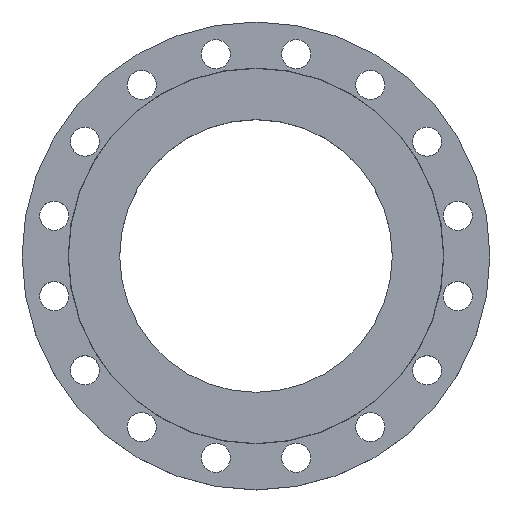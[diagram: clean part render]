
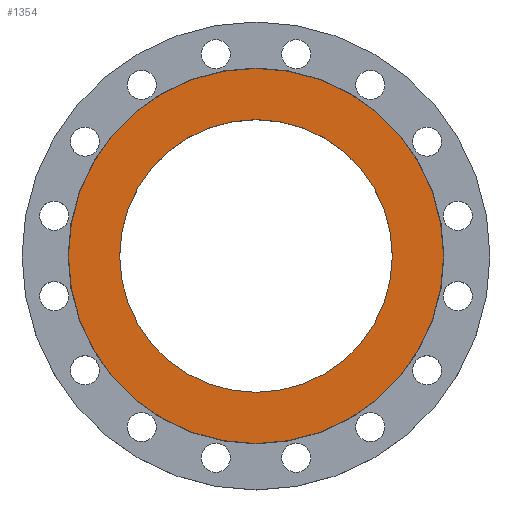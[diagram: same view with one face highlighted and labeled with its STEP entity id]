
A CAD part, top view. The second image highlights one B-rep face of the part: STEP entity #1354.
In plain terms, the highlighted planar face has unit normal (0, 0, 1).
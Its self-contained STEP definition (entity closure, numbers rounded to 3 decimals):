
#31 = EDGE_CURVE ( 'NONE', #1359, #1428, #879, .T. ) ;
#235 = CARTESIAN_POINT ( 'NONE',  ( 169., 0., 0. ) ) ;
#299 = AXIS2_PLACEMENT_3D ( 'NONE', #589, #586, #585 ) ;
#302 = CIRCLE ( 'NONE', #299, 232.5 ) ;
#312 = CARTESIAN_POINT ( 'NONE',  ( -169., 0., 0. ) ) ;
#318 = DIRECTION ( 'NONE',  ( 1., 0., 0. ) ) ;
#319 = DIRECTION ( 'NONE',  ( 0., 0., 1. ) ) ;
#320 = CARTESIAN_POINT ( 'NONE',  ( 0., 0., 0. ) ) ;
#321 = PLANE ( 'NONE',  #580 ) ;
#323 = FACE_OUTER_BOUND ( 'NONE', #1307, .T. ) ;
#324 = FACE_BOUND ( 'NONE', #1292, .T. ) ;
#325 = CARTESIAN_POINT ( 'NONE',  ( 232.5, 0., 0. ) ) ;
#385 = CARTESIAN_POINT ( 'NONE',  ( -232.5, 0., 0. ) ) ;
#580 = AXIS2_PLACEMENT_3D ( 'NONE', #320, #319, #318 ) ;
#585 = DIRECTION ( 'NONE',  ( -1., 0., 0. ) ) ;
#586 = DIRECTION ( 'NONE',  ( 0., 0., -1. ) ) ;
#589 = CARTESIAN_POINT ( 'NONE',  ( 0., 0., 0. ) ) ;
#590 = DIRECTION ( 'NONE',  ( -1., 0., 0. ) ) ;
#591 = DIRECTION ( 'NONE',  ( 0., 0., -1. ) ) ;
#592 = CARTESIAN_POINT ( 'NONE',  ( 0., 0., 0. ) ) ;
#611 = AXIS2_PLACEMENT_3D ( 'NONE', #1099, #1098, #1097 ) ;
#651 = DIRECTION ( 'NONE',  ( -1., 0., 0. ) ) ;
#653 = DIRECTION ( 'NONE',  ( 0., 0., -1. ) ) ;
#654 = CARTESIAN_POINT ( 'NONE',  ( 0., 0., 0. ) ) ;
#755 = CIRCLE ( 'NONE', #793, 232.5 ) ;
#793 = AXIS2_PLACEMENT_3D ( 'NONE', #592, #591, #590 ) ;
#879 = CIRCLE ( 'NONE', #611, 169. ) ;
#896 = EDGE_CURVE ( 'NONE', #1428, #1359, #1377, .T. ) ;
#950 = EDGE_CURVE ( 'NONE', #1353, #1224, #755, .T. ) ;
#958 = EDGE_CURVE ( 'NONE', #1224, #1353, #302, .T. ) ;
#1097 = DIRECTION ( 'NONE',  ( -1., 0., 0. ) ) ;
#1098 = DIRECTION ( 'NONE',  ( 0., 0., -1. ) ) ;
#1099 = CARTESIAN_POINT ( 'NONE',  ( 0., 0., 0. ) ) ;
#1224 = VERTEX_POINT ( 'NONE', #385 ) ;
#1292 = EDGE_LOOP ( 'NONE', ( #1615, #1616 ) ) ;
#1307 = EDGE_LOOP ( 'NONE', ( #1618, #1619 ) ) ;
#1353 = VERTEX_POINT ( 'NONE', #325 ) ;
#1354 = ADVANCED_FACE ( 'NONE', ( #324, #323 ), #321, .T. ) ;
#1359 = VERTEX_POINT ( 'NONE', #312 ) ;
#1377 = CIRCLE ( 'NONE', #1436, 169. ) ;
#1428 = VERTEX_POINT ( 'NONE', #235 ) ;
#1436 = AXIS2_PLACEMENT_3D ( 'NONE', #654, #653, #651 ) ;
#1615 = ORIENTED_EDGE ( 'NONE', *, *, #31, .T. ) ;
#1616 = ORIENTED_EDGE ( 'NONE', *, *, #896, .T. ) ;
#1618 = ORIENTED_EDGE ( 'NONE', *, *, #958, .F. ) ;
#1619 = ORIENTED_EDGE ( 'NONE', *, *, #950, .F. ) ;
